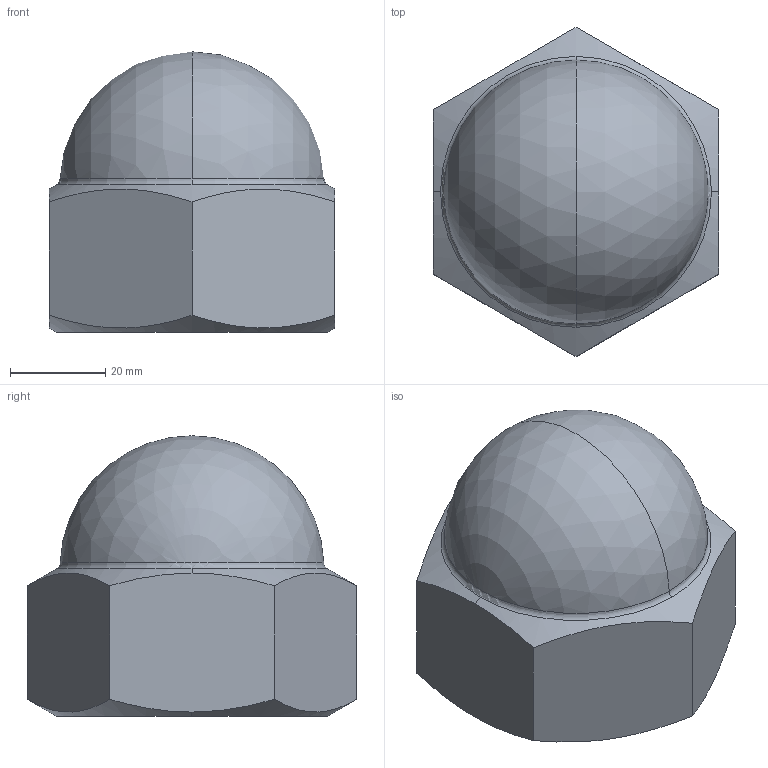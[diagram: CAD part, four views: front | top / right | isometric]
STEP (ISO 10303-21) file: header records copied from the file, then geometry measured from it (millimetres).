
FILE_DESCRIPTION (( 'STEP AP214' ), '1' );
FILE_NAME ('Domed-cap-nut-3-2-M39xP3-fine-thread-screw-simplified-drawing.STEP', '2024-03-24T06:11:49', ( 'ASIS User' ), ( 'ASIS User' ), 'SwSTEP 2.0', 'SolidWorks 2023', '' );
FILE_SCHEMA (( 'AUTOMOTIVE_DESIGN' ));
Length unit declared in the file: millimetre
Products named in the file (1): Domed-cap-nut-3-2-M39xP3-fine-thread-screw-simplified-drawing
Bounding box: 60 x 69.28 x 59 mm (x, y, z)
Volume: 72830.9 mm3; surface area: 22106 mm2
Topology: 1 solids, 1 shells, 26 faces, 64 edges, 40 vertices
Faces by surface type: cone 8, plane 8, cylinder 4, sphere 4, torus 2
Entity records: 893 total; most frequent: CARTESIAN_POINT 285, DIRECTION 124, ORIENTED_EDGE 120, EDGE_CURVE 60, AXIS2_PLACEMENT_3D 53, VERTEX_POINT 38, EDGE_LOOP 28, FACE_OUTER_BOUND 26
